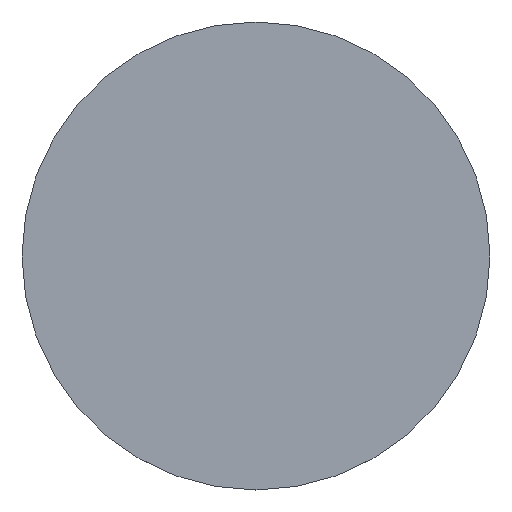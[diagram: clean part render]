
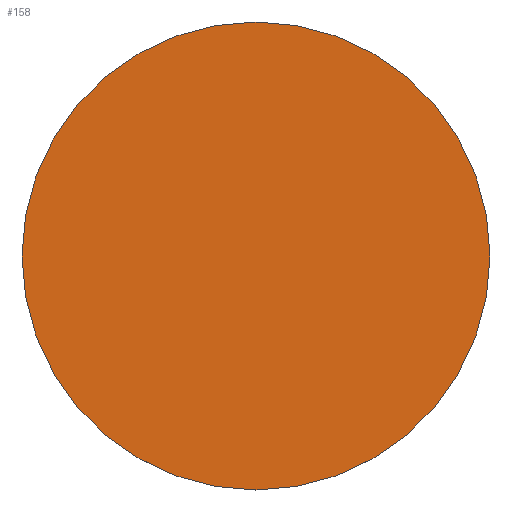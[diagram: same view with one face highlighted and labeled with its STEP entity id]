
A CAD part, top view. The second image highlights one B-rep face of the part: STEP entity #158.
In plain terms, the highlighted planar face has unit normal (0, 0, 1).
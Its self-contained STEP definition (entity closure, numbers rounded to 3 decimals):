
#24 = VERTEX_POINT('',#25);
#25 = CARTESIAN_POINT('',(29.,0.,0.6));
#32 = CYLINDRICAL_SURFACE('',#33,29.);
#33 = AXIS2_PLACEMENT_3D('',#34,#35,#36);
#34 = CARTESIAN_POINT('',(0.,0.,0.));
#35 = DIRECTION('',(-0.,-0.,-1.));
#36 = DIRECTION('',(1.,0.,0.));
#51 = EDGE_CURVE('',#24,#24,#52,.T.);
#52 = SURFACE_CURVE('',#53,(#58,#65),.PCURVE_S1.);
#53 = CIRCLE('',#54,29.);
#54 = AXIS2_PLACEMENT_3D('',#55,#56,#57);
#55 = CARTESIAN_POINT('',(0.,0.,0.6));
#56 = DIRECTION('',(0.,0.,1.));
#57 = DIRECTION('',(1.,0.,0.));
#58 = PCURVE('',#32,#59);
#59 = DEFINITIONAL_REPRESENTATION('',(#60),#64);
#60 = LINE('',#61,#62);
#61 = CARTESIAN_POINT('',(-0.,-0.6));
#62 = VECTOR('',#63,1.);
#63 = DIRECTION('',(-1.,0.));
#64 = ( GEOMETRIC_REPRESENTATION_CONTEXT(2) 
PARAMETRIC_REPRESENTATION_CONTEXT() REPRESENTATION_CONTEXT('2D SPACE',''
  ) );
#65 = PCURVE('',#66,#71);
#66 = PLANE('',#67);
#67 = AXIS2_PLACEMENT_3D('',#68,#69,#70);
#68 = CARTESIAN_POINT('',(0.,0.,0.6));
#69 = DIRECTION('',(0.,0.,1.));
#70 = DIRECTION('',(1.,0.,-0.));
#71 = DEFINITIONAL_REPRESENTATION('',(#72),#76);
#72 = CIRCLE('',#73,29.);
#73 = AXIS2_PLACEMENT_2D('',#74,#75);
#74 = CARTESIAN_POINT('',(0.,0.));
#75 = DIRECTION('',(1.,0.));
#76 = ( GEOMETRIC_REPRESENTATION_CONTEXT(2) 
PARAMETRIC_REPRESENTATION_CONTEXT() REPRESENTATION_CONTEXT('2D SPACE',''
  ) );
#158 = ADVANCED_FACE('',(#159),#66,.T.);
#159 = FACE_BOUND('',#160,.T.);
#160 = EDGE_LOOP('',(#161));
#161 = ORIENTED_EDGE('',*,*,#51,.T.);
